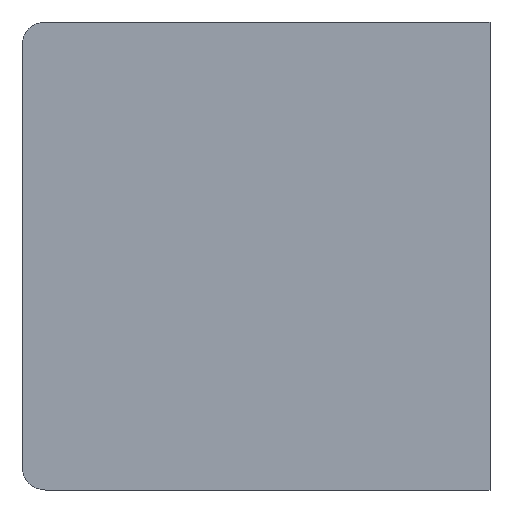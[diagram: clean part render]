
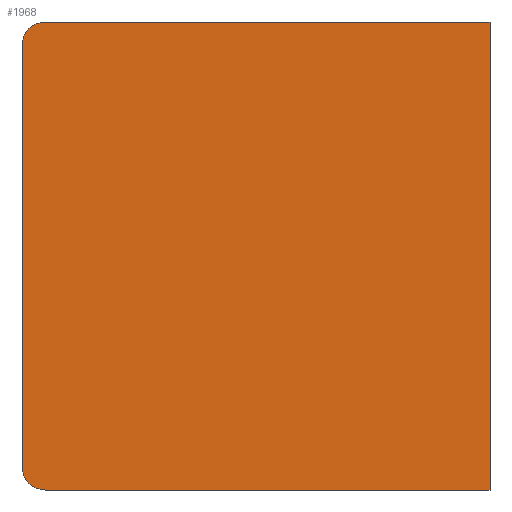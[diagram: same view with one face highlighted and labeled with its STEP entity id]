
A CAD part, front view. The second image highlights one B-rep face of the part: STEP entity #1968.
In plain terms, the highlighted planar face has unit normal (0, -1, 0).
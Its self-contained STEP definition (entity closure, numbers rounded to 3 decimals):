
#867=CARTESIAN_POINT('',(60.,-30.0,-60.));
#868=VERTEX_POINT('',#867);
#875=CARTESIAN_POINT('',(3.,-30.0,-60.));
#876=VERTEX_POINT('',#875);
#877=CARTESIAN_POINT('',(30.,-30.0,-60.));
#878=DIRECTION('',(-1.0,0.0,0.0));
#879=VECTOR('',#878,1.0);
#880=LINE('',#877,#879);
#881=EDGE_CURVE('',#868,#876,#880,.T.);
#955=CARTESIAN_POINT('',(60.0,-30.0,0.));
#956=VERTEX_POINT('',#955);
#1047=CARTESIAN_POINT('',(3.,-30.0,0.));
#1048=VERTEX_POINT('',#1047);
#1055=CARTESIAN_POINT('',(30.0,-30.0,0.0));
#1056=DIRECTION('',(1.0,0.0,0.0));
#1057=VECTOR('',#1056,1.0);
#1058=LINE('',#1055,#1057);
#1059=EDGE_CURVE('',#1048,#956,#1058,.T.);
#1264=CARTESIAN_POINT('',(0.,-30.0,-57.));
#1265=VERTEX_POINT('',#1264);
#1266=CARTESIAN_POINT('',(0.,-30.0,-3.));
#1267=VERTEX_POINT('',#1266);
#1268=CARTESIAN_POINT('',(0.0,-30.0,-30.0));
#1269=DIRECTION('',(0.0,0.0,1.0));
#1270=VECTOR('',#1269,1.0);
#1271=LINE('',#1268,#1270);
#1272=EDGE_CURVE('',#1265,#1267,#1271,.T.);
#1938=CARTESIAN_POINT('',(30.0,-30.0,-30.));
#1939=DIRECTION('',(0.,-1.0,0.));
#1940=DIRECTION('',(-1.0,0.0,0.));
#1941=AXIS2_PLACEMENT_3D('',#1938,#1939,#1940);
#1942=PLANE('',#1941);
#1943=ORIENTED_EDGE('',*,*,#1059,.F.);
#1944=CARTESIAN_POINT('',(3.,-30.0,-3.));
#1945=DIRECTION('',(0.,-1.0,0.));
#1946=DIRECTION('',(0.0,0.,-1.0));
#1947=AXIS2_PLACEMENT_3D('',#1944,#1945,#1946);
#1948=CIRCLE('',#1947,3.0);
#1949=EDGE_CURVE('',#1048,#1267,#1948,.T.);
#1950=ORIENTED_EDGE('',*,*,#1949,.T.);
#1951=ORIENTED_EDGE('',*,*,#1272,.F.);
#1952=CARTESIAN_POINT('',(3.0,-30.,-57.));
#1953=DIRECTION('',(0.,-1.0,0.));
#1954=DIRECTION('',(0.0,0.,-1.0));
#1955=AXIS2_PLACEMENT_3D('',#1952,#1953,#1954);
#1956=CIRCLE('',#1955,3.0);
#1957=EDGE_CURVE('',#1265,#876,#1956,.T.);
#1958=ORIENTED_EDGE('',*,*,#1957,.T.);
#1959=ORIENTED_EDGE('',*,*,#881,.F.);
#1960=CARTESIAN_POINT('',(60.0,-30.0,-30.));
#1961=DIRECTION('',(0.0,0.0,-1.0));
#1962=VECTOR('',#1961,1.0);
#1963=LINE('',#1960,#1962);
#1964=EDGE_CURVE('',#956,#868,#1963,.T.);
#1965=ORIENTED_EDGE('',*,*,#1964,.F.);
#1966=EDGE_LOOP('',(#1943,#1950,#1951,#1958,#1959,#1965));
#1967=FACE_OUTER_BOUND('',#1966,.T.);
#1968=ADVANCED_FACE('',(#1967),#1942,.T.);
